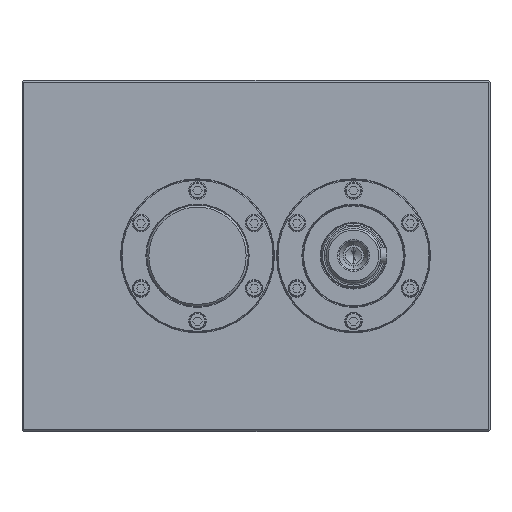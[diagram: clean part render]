
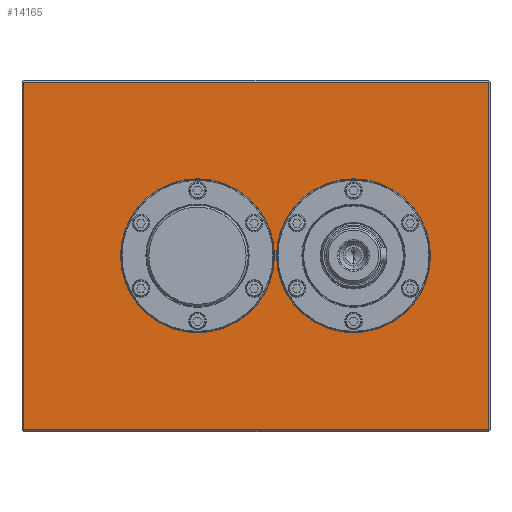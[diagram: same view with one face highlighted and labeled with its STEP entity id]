
A CAD part, top view. The second image highlights one B-rep face of the part: STEP entity #14165.
In plain terms, the highlighted planar face has unit normal (0, 0, 1).
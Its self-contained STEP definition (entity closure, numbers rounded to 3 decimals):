
#283=DIRECTION('',(1.,0.,0.));
#284=VECTOR('',#283,238.);
#285=CARTESIAN_POINT('',(-89.,89.,60.));
#286=LINE('',#285,#284);
#287=DIRECTION('',(-1.,0.,0.));
#288=VECTOR('',#287,238.);
#289=CARTESIAN_POINT('',(149.,-89.,60.));
#290=LINE('',#289,#288);
#291=CARTESIAN_POINT('',(0.,0.,60.));
#292=DIRECTION('',(0.,0.,-1.));
#293=DIRECTION('',(1.,0.,0.));
#294=AXIS2_PLACEMENT_3D('',#291,#292,#293);
#296=CARTESIAN_POINT('',(0.,0.,60.));
#297=DIRECTION('',(0.,0.,1.));
#298=DIRECTION('',(1.,0.,0.));
#299=AXIS2_PLACEMENT_3D('',#296,#297,#298);
#301=CARTESIAN_POINT('',(80.,0.,60.));
#302=DIRECTION('',(0.,0.,-1.));
#303=DIRECTION('',(1.,0.,0.));
#304=AXIS2_PLACEMENT_3D('',#301,#302,#303);
#306=CARTESIAN_POINT('',(80.,0.,60.));
#307=DIRECTION('',(0.,0.,1.));
#308=DIRECTION('',(1.,0.,0.));
#309=AXIS2_PLACEMENT_3D('',#306,#307,#308);
#319=DIRECTION('',(0.,-1.,0.));
#320=VECTOR('',#319,178.);
#321=CARTESIAN_POINT('',(-89.,89.,60.));
#322=LINE('',#321,#320);
#493=DIRECTION('',(0.,1.,0.));
#494=VECTOR('',#493,178.);
#495=CARTESIAN_POINT('',(149.,-89.,60.));
#496=LINE('',#495,#494);
#11421=CARTESIAN_POINT('',(149.,-89.,60.));
#11423=VERTEX_POINT('',#11421);
#11439=CARTESIAN_POINT('',(-89.,-89.,60.));
#11440=VERTEX_POINT('',#11439);
#12077=CARTESIAN_POINT('',(-89.,89.,60.));
#12078=VERTEX_POINT('',#12077);
#12079=CARTESIAN_POINT('',(149.,89.,60.));
#12081=VERTEX_POINT('',#12079);
#12158=CARTESIAN_POINT('',(39.5,0.,60.));
#12160=VERTEX_POINT('',#12158);
#12162=CARTESIAN_POINT('',(-39.5,0.,60.));
#12164=VERTEX_POINT('',#12162);
#12166=CARTESIAN_POINT('',(119.5,0.,60.));
#12168=VERTEX_POINT('',#12166);
#12170=CARTESIAN_POINT('',(40.5,0.,60.));
#12172=VERTEX_POINT('',#12170);
#14140=CARTESIAN_POINT('',(-90.,0.,60.));
#14141=DIRECTION('',(0.,0.,1.));
#14142=DIRECTION('',(1.,0.,0.));
#14143=AXIS2_PLACEMENT_3D('',#14140,#14141,#14142);
#14144=PLANE('',#14143);
#14146=ORIENTED_EDGE('',*,*,#14145,.F.);
#14148=ORIENTED_EDGE('',*,*,#14147,.T.);
#14150=ORIENTED_EDGE('',*,*,#14149,.F.);
#14152=ORIENTED_EDGE('',*,*,#14151,.T.);
#14153=EDGE_LOOP('',(#14146,#14148,#14150,#14152));
#14154=FACE_OUTER_BOUND('',#14153,.F.);
#14155=ORIENTED_EDGE('',*,*,#14105,.F.);
#14156=ORIENTED_EDGE('',*,*,#14128,.T.);
#14157=EDGE_LOOP('',(#14155,#14156));
#14158=FACE_BOUND('',#14157,.F.);
#14160=ORIENTED_EDGE('',*,*,#14159,.F.);
#14162=ORIENTED_EDGE('',*,*,#14161,.T.);
#14163=EDGE_LOOP('',(#14160,#14162));
#14164=FACE_BOUND('',#14163,.F.);
#14165=ADVANCED_FACE('',(#14154,#14158,#14164),#14144,.T.);
#295=CIRCLE('',#294,39.5);
#300=CIRCLE('',#299,39.5);
#305=CIRCLE('',#304,39.5);
#310=CIRCLE('',#309,39.5);
#14105=EDGE_CURVE('',#12160,#12164,#295,.T.);
#14128=EDGE_CURVE('',#12160,#12164,#300,.T.);
#14145=EDGE_CURVE('',#12078,#11440,#322,.T.);
#14147=EDGE_CURVE('',#12078,#12081,#286,.T.);
#14149=EDGE_CURVE('',#11423,#12081,#496,.T.);
#14151=EDGE_CURVE('',#11423,#11440,#290,.T.);
#14159=EDGE_CURVE('',#12168,#12172,#305,.T.);
#14161=EDGE_CURVE('',#12168,#12172,#310,.T.);
